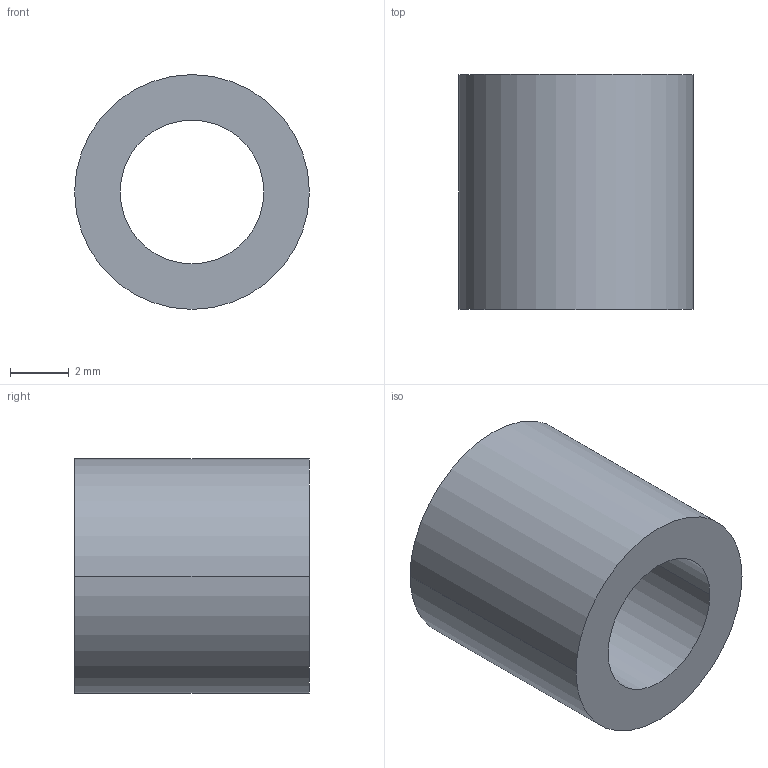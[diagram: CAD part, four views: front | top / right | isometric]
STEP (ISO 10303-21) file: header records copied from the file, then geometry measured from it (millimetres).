
FILE_DESCRIPTION (( 'STEP AP203' ), '1' );
FILE_NAME ('30800.WPP8B4.9.step', '2019-01-23T22:21:59', ( '' ), ( '' ), 'SwSTEP 2.0', 'SolidWorks 2017', '' );
FILE_SCHEMA (( 'CONFIG_CONTROL_DESIGN' ));
Length unit declared in the file: millimetre
Products named in the file (1): 30800.WPP8B4.9
Bounding box: 8 x 8 x 8 mm (x, y, z)
Volume: 247.7 mm3; surface area: 380.9 mm2
Topology: 1 solids, 1 shells, 8 faces, 16 edges, 10 vertices
Faces by surface type: cylinder 4, torus 2, plane 2
Entity records: 297 total; most frequent: DIRECTION 46, CARTESIAN_POINT 35, ORIENTED_EDGE 32, AXIS2_PLACEMENT_3D 21, EDGE_CURVE 16, CIRCLE 12, EDGE_LOOP 10, VERTEX_POINT 10
